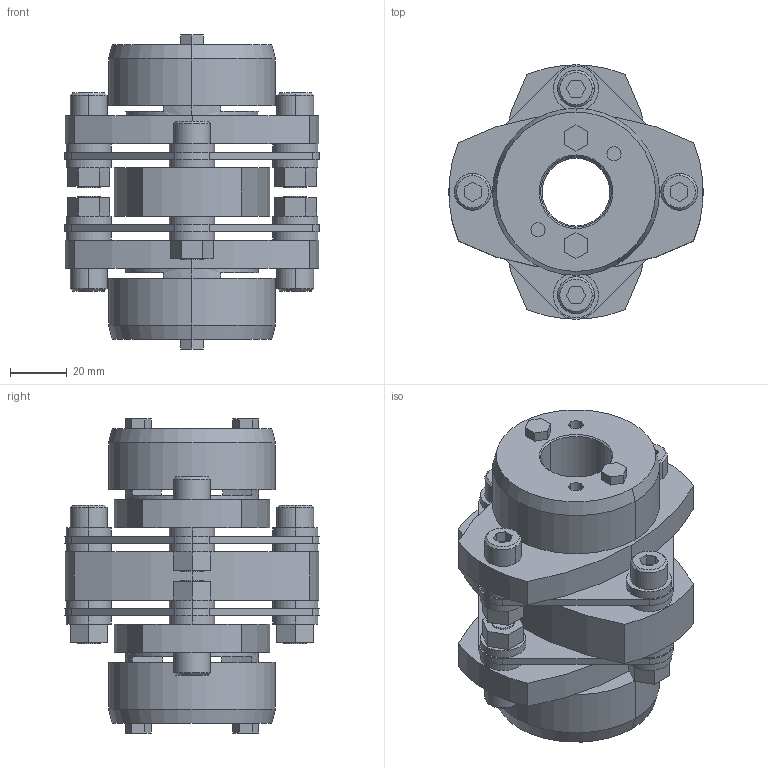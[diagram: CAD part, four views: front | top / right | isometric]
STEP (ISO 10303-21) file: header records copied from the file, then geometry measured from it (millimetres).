
FILE_DESCRIPTION((''),'2;1');
FILE_NAME('LCD-90T7-24×25.stp','2015-11-01T19:26:14',(''),(''),'AutoCAD STEP 2000i','AutoCAD 2000i',', , ');
FILE_SCHEMA(('CONFIG_CONTROL_DESIGN'));
Length unit declared in the file: millimetre
Products named in the file (7): LCD-90T7-25×25; 忣兜1; LC90T7-T025-1; LC90T7-T025; LC90T7-T019-1; LC90T7-T019; LCD90-ITA
Assembly tree (6 placements, depth 2):
  LCD-90T7-25×25
    忣兜1
    LC90T7-T025-1
    LC90T7-T025
    LC90T7-T019-1
    LC90T7-T019
    LCD90-ITA
Bounding box: 90 x 89.94 x 111 mm (x, y, z)
Volume: 267581.4 mm3; surface area: 73236.1 mm2
Topology: 1 solids, 1 shells, 306 faces, 744 edges, 488 vertices
Faces by surface type: plane 162, cylinder 120, cone 24
Entity records: 9247 total; most frequent: DIRECTION 1650, CARTESIAN_POINT 1545, ORIENTED_EDGE 1488, EDGE_CURVE 744, AXIS2_PLACEMENT_3D 593, VERTEX_POINT 488, VECTOR 464, LINE 464
